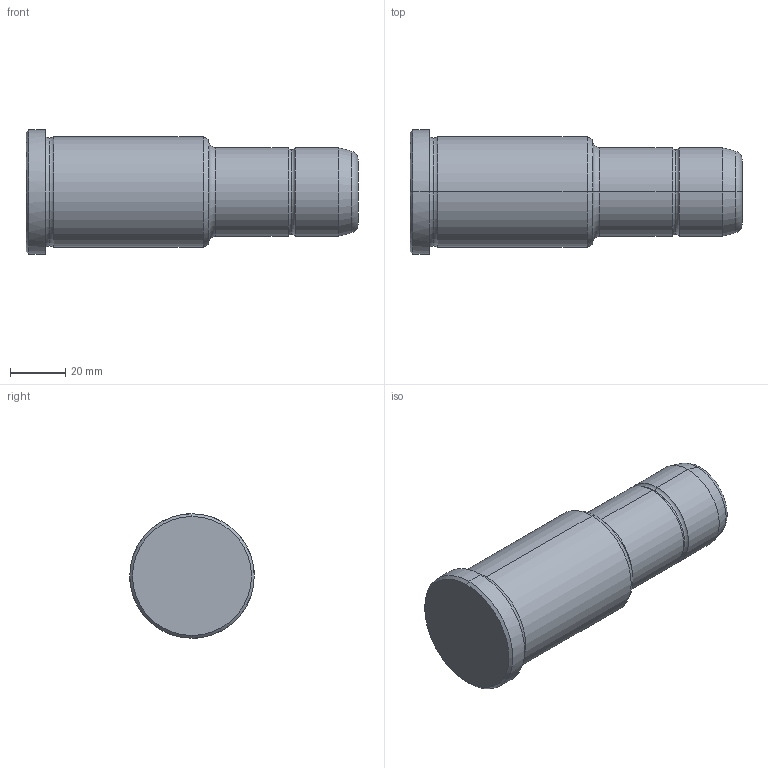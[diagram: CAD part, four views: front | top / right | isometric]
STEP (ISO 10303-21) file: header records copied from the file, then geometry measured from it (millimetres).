
FILE_DESCRIPTION(('CATIA V5 STEP Exchange'),'2;1');
FILE_NAME('C:\Users\Utente\Desktop\IO LAVORO\3D X SITO CF\X SITO\PLASTICA\351\351-32X66X120.stp','2021-09-07T12:31:19+00:00',('none'),('none'),'CATIA Version 5 Release 20 GA (IN-10)','CATIA V5 STEP AP203','none');
FILE_SCHEMA(('CONFIG_CONTROL_DESIGN'));
Length unit declared in the file: millimetre
Products named in the file (1): 351-32X66X120
Bounding box: 120 x 45 x 45 mm (x, y, z)
Volume: 127640.6 mm3; surface area: 16530.1 mm2
Topology: 1 solids, 1 shells, 30 faces, 86 edges, 60 vertices
Faces by surface type: torus 12, cylinder 8, cone 6, plane 4
Entity records: 1112 total; most frequent: CARTESIAN_POINT 289, ORIENTED_EDGE 172, DIRECTION 138, AXIS2_PLACEMENT_3D 95, EDGE_CURVE 86, CIRCLE 64, VERTEX_POINT 60, EDGE_LOOP 32
